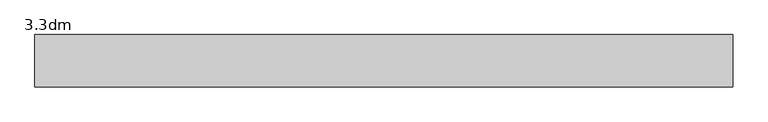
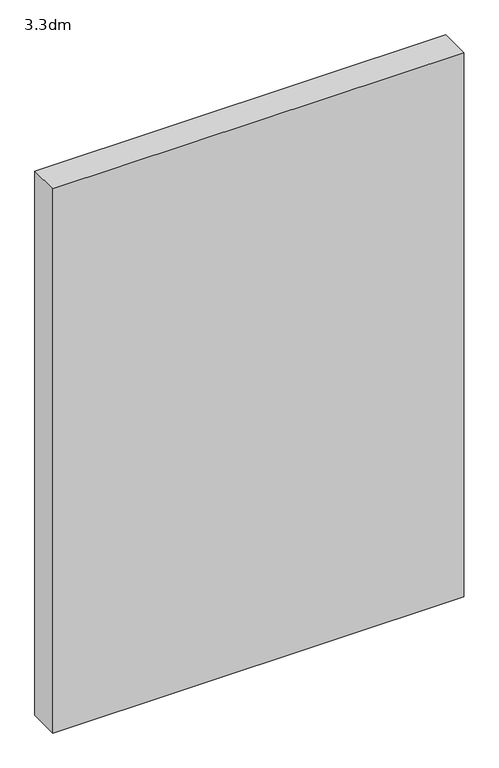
"""IFC4 building model written with IfcOpenShell, lengths in millimetres: proxy geometry, 3.3dm."""

from ifc_helpers import new_model, si_unit, origin, origin_with_axes, place, context, project, spatial, polyline, outline, extrude, source, transform, mapped, element, save


def proxy_3_3dm_61976232(model_context):
    return source(origin(), model_context, "Body", "SweptSolid", [
        extrude(outline(polyline([(4508.2096042, 12.0), (4508.2096042, 162.0), (6508.2096042, 162.0), (6508.2096042, 12.0), (4508.2096042, 12.0)])), origin_with_axes(), (0.0, 0.0, 1.0), 2800.0),
    ])


if __name__ == "__main__":
    model = new_model("IFC4")
    model_context = context("Model", 3, world=origin())
    ifc_project = project(units=[si_unit("LENGTHUNIT", "METRE", prefix="MILLI")], contexts=[model_context])
    site = spatial("IfcSite", under=ifc_project)
    building = spatial("IfcBuilding", under=site)
    placement = place(None, origin())
    proxy_3_3dm_shape = proxy_3_3dm_61976232(model_context)
    element("IfcBuildingElementProxy", 1, Name="3.3dm", ObjectType="3.3dm", at=placement, inside=building, context=model_context, shape_type="MappedRepresentation", body=[
        mapped(proxy_3_3dm_shape, transform((0.0, 0.0, 0.0), x_axis=(1.0, 0.0, 0.0), y_axis=(0.0, 1.0, 0.0), z_axis=(0.0, 0.0, 1.0))),
    ])
    save(model, "model.ifc")
